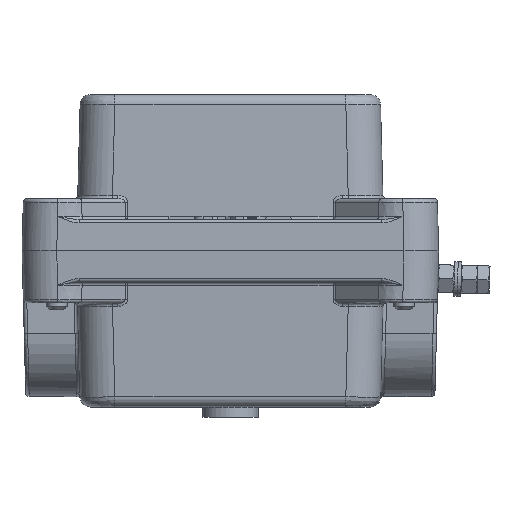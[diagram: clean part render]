
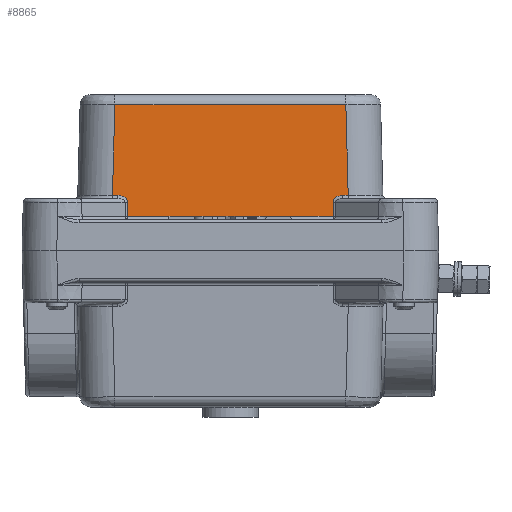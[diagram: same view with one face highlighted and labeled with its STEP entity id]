
A CAD part, front view. The second image highlights one B-rep face of the part: STEP entity #8865.
In plain terms, the highlighted planar face has unit normal (0, -1, 0.026) as drawn and (0, 0.026, -1) by its records, which use the part's own axes.
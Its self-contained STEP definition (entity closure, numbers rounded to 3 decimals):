
#8865=ADVANCED_FACE('',(#30792),#30794,.T.);
#30792=FACE_BOUND('',#30793,.T.);
#30793=EDGE_LOOP('',(#39370,#39371,#39372,#39373,#39374,#39375,#39376,#39377,#39378,
#39379));
#30794=PLANE('',#30795);
#30795=AXIS2_PLACEMENT_3D('',#30796,#30797,#30798);
#30796=CARTESIAN_POINT('',(29.976,9.5,-44.118));
#30797=DIRECTION('',(0.,0.026,-1.));
#30798=DIRECTION('',(-1.,0.,0.));
#39370=ORIENTED_EDGE('',*,*,#43228,.T.);
#39371=ORIENTED_EDGE('',*,*,#43727,.F.);
#39372=ORIENTED_EDGE('',*,*,#43221,.F.);
#39373=ORIENTED_EDGE('',*,*,#42758,.T.);
#39374=ORIENTED_EDGE('',*,*,#42753,.T.);
#39375=ORIENTED_EDGE('',*,*,#43728,.F.);
#39376=ORIENTED_EDGE('',*,*,#42746,.T.);
#39377=ORIENTED_EDGE('',*,*,#43729,.T.);
#39378=ORIENTED_EDGE('',*,*,#43730,.F.);
#39379=ORIENTED_EDGE('',*,*,#43731,.F.);
#42746=EDGE_CURVE('',#46801,#46799,#46802,.T.);
#42753=EDGE_CURVE('',#46811,#46812,#46813,.T.);
#42758=EDGE_CURVE('',#46818,#46811,#46819,.T.);
#43221=EDGE_CURVE('',#46818,#47537,#47538,.T.);
#43228=EDGE_CURVE('',#47548,#47546,#47549,.T.);
#43727=EDGE_CURVE('',#47537,#47546,#48317,.F.);
#43728=EDGE_CURVE('',#46801,#46812,#48318,.T.);
#43729=EDGE_CURVE('',#46799,#48319,#48320,.T.);
#43730=EDGE_CURVE('',#48321,#48319,#48322,.T.);
#43731=EDGE_CURVE('',#47548,#48321,#48323,.T.);
#46799=VERTEX_POINT('',#61492);
#46801=VERTEX_POINT('',#61497);
#46802=LINE('',#61498,#61499);
#46811=VERTEX_POINT('',#61560);
#46812=VERTEX_POINT('',#61561);
#46813=LINE('',#61562,#61563);
#46818=VERTEX_POINT('',#61581);
#46819=LINE('',#61582,#61583);
#47537=VERTEX_POINT('',#63602);
#47538=LINE('',#63603,#63604);
#47546=VERTEX_POINT('',#63640);
#47548=VERTEX_POINT('',#63645);
#47549=LINE('',#63646,#63647);
#48317=B_SPLINE_CURVE_WITH_KNOTS('',3,
(#65999,#66000,#66001,#66002,#66003,#66004,#66005,#66006,#66007,#66008,#66009,#66010,
#66011,#66012,#66013,#66014,#66015,#66016,#66017,#66018,#66019,#66020,#66021,#66022,
#66023,#66024,#66025,#66026,#66027,#66028,#66029,#66030),
.UNSPECIFIED.,.F.,.F.,
(4,2,2,2,2,2,2,2,2,2,2,2,2,2,2,4),
(0.,0.123,0.213,0.245,0.342,0.434,
0.516,0.59,0.658,0.722,0.782,
0.839,0.895,0.953,0.999,1.),
.UNSPECIFIED.);
#48318=B_SPLINE_CURVE_WITH_KNOTS('',3,
(#66031,#66032,#66033,#66034,#66035,#66036,#66037,#66038,#66039,#66040,#66041,#66042,
#66043,#66044,#66045,#66046,#66047,#66048,#66049,#66050,#66051,#66052,#66053,#66054,
#66055,#66056,#66057,#66058,#66059,#66060,#66061,#66062),
.UNSPECIFIED.,.F.,.F.,
(4,2,2,2,2,2,2,2,2,2,2,2,2,2,2,4),
(0.,0.123,0.213,0.245,0.342,0.434,
0.516,0.59,0.658,0.722,0.782,
0.839,0.895,0.953,0.999,1.),
.UNSPECIFIED.);
#48319=VERTEX_POINT('',#66063);
#48320=LINE('',#66064,#66065);
#48321=VERTEX_POINT('',#66067);
#48322=LINE('',#66068,#66069);
#48323=LINE('',#66071,#66072);
#61492=CARTESIAN_POINT('',(-33.939,16.474,-43.936));
#61497=CARTESIAN_POINT('',(-32.393,16.474,-43.936));
#61498=CARTESIAN_POINT('',(-32.393,16.474,-43.936));
#61499=VECTOR('',#61500,1.);
#61500=DIRECTION('',(-1.,0.,0.));
#61560=CARTESIAN_POINT('',(-29.573,10.474,-44.093));
#61561=CARTESIAN_POINT('',(-29.617,14.526,-43.987));
#61562=CARTESIAN_POINT('',(-29.573,10.474,-44.093));
#61563=VECTOR('',#61564,1.);
#61564=DIRECTION('',(-0.011,1.,0.026));
#61581=CARTESIAN_POINT('',(29.573,10.474,-44.093));
#61582=CARTESIAN_POINT('',(29.573,10.474,-44.093));
#61583=VECTOR('',#61584,1.);
#61584=DIRECTION('',(-1.,0.,0.));
#63602=CARTESIAN_POINT('',(29.617,14.526,-43.987));
#63603=CARTESIAN_POINT('',(29.573,10.474,-44.093));
#63604=VECTOR('',#63605,1.);
#63605=DIRECTION('',(0.011,1.,0.026));
#63640=CARTESIAN_POINT('',(32.393,16.474,-43.936));
#63645=CARTESIAN_POINT('',(33.939,16.474,-43.936));
#63646=CARTESIAN_POINT('',(33.939,16.474,-43.936));
#63647=VECTOR('',#63648,1.);
#63648=DIRECTION('',(-1.,0.,0.));
#65999=CARTESIAN_POINT('',(32.393,16.474,-43.936));
#66000=CARTESIAN_POINT('',(32.228,16.469,-43.936));
#66001=CARTESIAN_POINT('',(32.063,16.464,-43.936));
#66002=CARTESIAN_POINT('',(31.772,16.426,-43.937));
#66003=CARTESIAN_POINT('',(31.645,16.405,-43.937));
#66004=CARTESIAN_POINT('',(31.477,16.366,-43.939));
#66005=CARTESIAN_POINT('',(31.433,16.355,-43.939));
#66006=CARTESIAN_POINT('',(31.259,16.307,-43.94));
#66007=CARTESIAN_POINT('',(31.128,16.264,-43.941));
#66008=CARTESIAN_POINT('',(30.885,16.165,-43.944));
#66009=CARTESIAN_POINT('',(30.768,16.109,-43.945));
#66010=CARTESIAN_POINT('',(30.562,15.993,-43.948));
#66011=CARTESIAN_POINT('',(30.468,15.933,-43.95));
#66012=CARTESIAN_POINT('',(30.305,15.812,-43.953));
#66013=CARTESIAN_POINT('',(30.232,15.751,-43.955));
#66014=CARTESIAN_POINT('',(30.104,15.629,-43.958));
#66015=CARTESIAN_POINT('',(30.048,15.568,-43.959));
#66016=CARTESIAN_POINT('',(29.949,15.449,-43.963));
#66017=CARTESIAN_POINT('',(29.905,15.389,-43.964));
#66018=CARTESIAN_POINT('',(29.83,15.272,-43.967));
#66019=CARTESIAN_POINT('',(29.797,15.214,-43.969));
#66020=CARTESIAN_POINT('',(29.742,15.1,-43.972));
#66021=CARTESIAN_POINT('',(29.719,15.045,-43.973));
#66022=CARTESIAN_POINT('',(29.68,14.935,-43.976));
#66023=CARTESIAN_POINT('',(29.664,14.88,-43.977));
#66024=CARTESIAN_POINT('',(29.639,14.77,-43.98));
#66025=CARTESIAN_POINT('',(29.63,14.715,-43.982));
#66026=CARTESIAN_POINT('',(29.62,14.615,-43.984));
#66027=CARTESIAN_POINT('',(29.617,14.571,-43.985));
#66028=CARTESIAN_POINT('',(29.617,14.527,-43.987));
#66029=CARTESIAN_POINT('',(29.617,14.527,-43.987));
#66030=CARTESIAN_POINT('',(29.617,14.526,-43.987));
#66031=CARTESIAN_POINT('',(-32.393,16.474,-43.936));
#66032=CARTESIAN_POINT('',(-32.228,16.469,-43.936));
#66033=CARTESIAN_POINT('',(-32.063,16.464,-43.936));
#66034=CARTESIAN_POINT('',(-31.772,16.426,-43.937));
#66035=CARTESIAN_POINT('',(-31.645,16.405,-43.937));
#66036=CARTESIAN_POINT('',(-31.477,16.366,-43.939));
#66037=CARTESIAN_POINT('',(-31.433,16.355,-43.939));
#66038=CARTESIAN_POINT('',(-31.259,16.307,-43.94));
#66039=CARTESIAN_POINT('',(-31.128,16.264,-43.941));
#66040=CARTESIAN_POINT('',(-30.885,16.165,-43.944));
#66041=CARTESIAN_POINT('',(-30.768,16.109,-43.945));
#66042=CARTESIAN_POINT('',(-30.562,15.993,-43.948));
#66043=CARTESIAN_POINT('',(-30.468,15.933,-43.95));
#66044=CARTESIAN_POINT('',(-30.305,15.812,-43.953));
#66045=CARTESIAN_POINT('',(-30.232,15.751,-43.955));
#66046=CARTESIAN_POINT('',(-30.104,15.629,-43.958));
#66047=CARTESIAN_POINT('',(-30.048,15.568,-43.959));
#66048=CARTESIAN_POINT('',(-29.949,15.449,-43.963));
#66049=CARTESIAN_POINT('',(-29.905,15.389,-43.964));
#66050=CARTESIAN_POINT('',(-29.83,15.272,-43.967));
#66051=CARTESIAN_POINT('',(-29.797,15.214,-43.969));
#66052=CARTESIAN_POINT('',(-29.742,15.1,-43.972));
#66053=CARTESIAN_POINT('',(-29.719,15.045,-43.973));
#66054=CARTESIAN_POINT('',(-29.68,14.935,-43.976));
#66055=CARTESIAN_POINT('',(-29.664,14.88,-43.977));
#66056=CARTESIAN_POINT('',(-29.639,14.77,-43.98));
#66057=CARTESIAN_POINT('',(-29.63,14.715,-43.982));
#66058=CARTESIAN_POINT('',(-29.62,14.615,-43.984));
#66059=CARTESIAN_POINT('',(-29.617,14.571,-43.985));
#66060=CARTESIAN_POINT('',(-29.617,14.527,-43.987));
#66061=CARTESIAN_POINT('',(-29.617,14.527,-43.987));
#66062=CARTESIAN_POINT('',(-29.617,14.526,-43.987));
#66063=CARTESIAN_POINT('',(-33.256,42.579,-43.252));
#66064=CARTESIAN_POINT('',(-33.939,16.474,-43.936));
#66065=VECTOR('',#66066,1.);
#66066=DIRECTION('',(0.026,0.999,0.026));
#66067=CARTESIAN_POINT('',(33.256,42.579,-43.252));
#66068=CARTESIAN_POINT('',(33.256,42.579,-43.252));
#66069=VECTOR('',#66070,1.);
#66070=DIRECTION('',(-1.,0.,0.));
#66071=CARTESIAN_POINT('',(33.939,16.474,-43.936));
#66072=VECTOR('',#66073,1.);
#66073=DIRECTION('',(-0.026,0.999,0.026));
